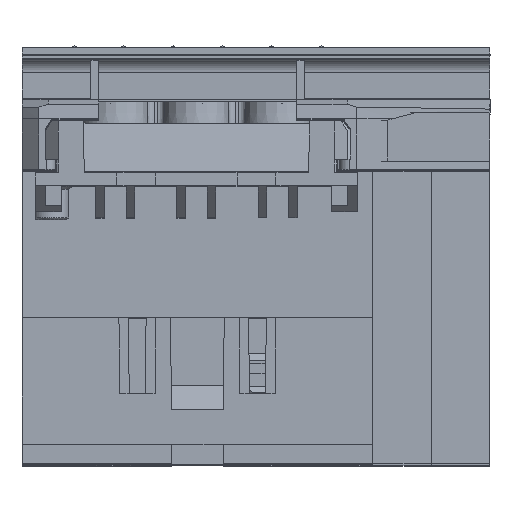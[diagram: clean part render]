
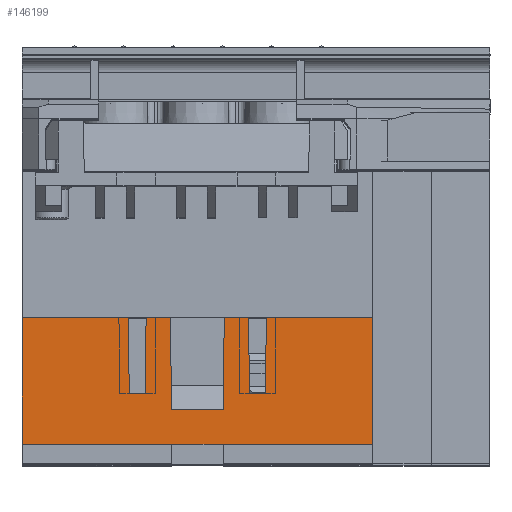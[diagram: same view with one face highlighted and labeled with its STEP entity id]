
A CAD part, top view. The second image highlights one B-rep face of the part: STEP entity #146199.
In plain terms, the highlighted planar face has unit normal (0, -0.009, 1).
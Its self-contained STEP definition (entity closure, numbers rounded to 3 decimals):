
#6551 = DIRECTION ( 'NONE',  ( 0., -1., -0.009 ) ) ;
#9497 = ORIENTED_EDGE ( 'NONE', *, *, #37506, .F. ) ;
#11161 = ORIENTED_EDGE ( 'NONE', *, *, #57602, .T. ) ;
#11245 = VERTEX_POINT ( 'NONE', #61186 ) ;
#11480 = VERTEX_POINT ( 'NONE', #109209 ) ;
#11559 = CARTESIAN_POINT ( 'NONE',  ( -4.127, -4., 200.004 ) ) ;
#13250 = LINE ( 'NONE', #33876, #45991 ) ;
#13486 = LINE ( 'NONE', #178816, #161713 ) ;
#15102 = DIRECTION ( 'NONE',  ( 1., 0., 0. ) ) ;
#19234 = DIRECTION ( 'NONE',  ( -0.009, -1., -0.009 ) ) ;
#21339 = EDGE_CURVE ( 'NONE', #98761, #40445, #148054, .T. ) ;
#23335 = DIRECTION ( 'NONE',  ( -1., 0., 0. ) ) ;
#24262 = VECTOR ( 'NONE', #23335, 1000. ) ;
#26118 = DIRECTION ( 'NONE',  ( 1., 0., 0. ) ) ;
#29124 = VECTOR ( 'NONE', #29799, 1000. ) ;
#29799 = DIRECTION ( 'NONE',  ( -0.009, 1., 0.009 ) ) ;
#30286 = ORIENTED_EDGE ( 'NONE', *, *, #21339, .T. ) ;
#33876 = CARTESIAN_POINT ( 'NONE',  ( -26., -4., 200.004 ) ) ;
#33909 = ORIENTED_EDGE ( 'NONE', *, *, #115626, .F. ) ;
#37506 = EDGE_CURVE ( 'NONE', #46855, #40445, #138639, .T. ) ;
#38106 = VERTEX_POINT ( 'NONE', #140403 ) ;
#38397 = VECTOR ( 'NONE', #19234, 1000. ) ;
#39551 = EDGE_CURVE ( 'NONE', #45191, #62389, #61982, .T. ) ;
#40406 = DIRECTION ( 'NONE',  ( 1., 0., 0. ) ) ;
#40445 = VERTEX_POINT ( 'NONE', #133307 ) ;
#42940 = VECTOR ( 'NONE', #26118, 1000. ) ;
#45191 = VERTEX_POINT ( 'NONE', #112033 ) ;
#45991 = VECTOR ( 'NONE', #144654, 1000. ) ;
#46332 = EDGE_CURVE ( 'NONE', #161485, #71693, #150613, .T. ) ;
#46717 = VECTOR ( 'NONE', #40406, 1000. ) ;
#46855 = VERTEX_POINT ( 'NONE', #75066 ) ;
#48503 = CARTESIAN_POINT ( 'NONE',  ( 4.303, 16.2, 200.18 ) ) ;
#48882 = CARTESIAN_POINT ( 'NONE',  ( -26., -15.7, 199.902 ) ) ;
#49442 = VERTEX_POINT ( 'NONE', #157116 ) ;
#52937 = EDGE_CURVE ( 'NONE', #11245, #120871, #92572, .T. ) ;
#54407 = CARTESIAN_POINT ( 'NONE',  ( 10.602, -4., 200.004 ) ) ;
#55580 = EDGE_CURVE ( 'NONE', #46855, #45191, #13486, .T. ) ;
#56451 = CARTESIAN_POINT ( 'NONE',  ( 8., -15.7, 199.902 ) ) ;
#57287 = ORIENTED_EDGE ( 'NONE', *, *, #125889, .T. ) ;
#57602 = EDGE_CURVE ( 'NONE', #62389, #60963, #95914, .T. ) ;
#58649 = VECTOR ( 'NONE', #92146, 1000. ) ;
#58812 = VECTOR ( 'NONE', #64510, 1000. ) ;
#58989 = VECTOR ( 'NONE', #120560, 1000. ) ;
#60963 = VERTEX_POINT ( 'NONE', #81703 ) ;
#61186 = CARTESIAN_POINT ( 'NONE',  ( -7.898, -4., 200.004 ) ) ;
#61399 = CARTESIAN_POINT ( 'NONE',  ( -26., 18.5, 200.2 ) ) ;
#61982 = LINE ( 'NONE', #165384, #140363 ) ;
#62389 = VERTEX_POINT ( 'NONE', #168849 ) ;
#64510 = DIRECTION ( 'NONE',  ( 1., 0., 0. ) ) ;
#65086 = ORIENTED_EDGE ( 'NONE', *, *, #52937, .F. ) ;
#65163 = LINE ( 'NONE', #48882, #58649 ) ;
#65275 = VECTOR ( 'NONE', #144603, 1000. ) ;
#68227 = DIRECTION ( 'NONE',  ( 1., 0., 0. ) ) ;
#71693 = VERTEX_POINT ( 'NONE', #56451 ) ;
#72616 = VERTEX_POINT ( 'NONE', #103142 ) ;
#74380 = VECTOR ( 'NONE', #68227, 1000. ) ;
#75066 = CARTESIAN_POINT ( 'NONE',  ( -27., -4., 200.004 ) ) ;
#76406 = CARTESIAN_POINT ( 'NONE',  ( 10.778, 16.2, 200.18 ) ) ;
#78887 = CARTESIAN_POINT ( 'NONE',  ( -26., -15.7, 199.902 ) ) ;
#80713 = ORIENTED_EDGE ( 'NONE', *, *, #156915, .T. ) ;
#81703 = CARTESIAN_POINT ( 'NONE',  ( 4., -23.5, 199.833 ) ) ;
#82086 = DIRECTION ( 'NONE',  ( 1., 0., 0. ) ) ;
#82418 = CARTESIAN_POINT ( 'NONE',  ( 27., -23.5, 199.833 ) ) ;
#83556 = ORIENTED_EDGE ( 'NONE', *, *, #123767, .T. ) ;
#84084 = ORIENTED_EDGE ( 'NONE', *, *, #154951, .T. ) ;
#85061 = CARTESIAN_POINT ( 'NONE',  ( 10.5, -15.7, 199.902 ) ) ;
#90058 = DIRECTION ( 'NONE',  ( 0., -0.009, 1. ) ) ;
#92146 = DIRECTION ( 'NONE',  ( -1., 0., 0. ) ) ;
#92572 = LINE ( 'NONE', #123747, #46717 ) ;
#95611 = CARTESIAN_POINT ( 'NONE',  ( -26., -4., 200.004 ) ) ;
#95914 = LINE ( 'NONE', #146650, #58812 ) ;
#97176 = DIRECTION ( 'NONE',  ( -0.009, 1., 0.009 ) ) ;
#97371 = ORIENTED_EDGE ( 'NONE', *, *, #97990, .T. ) ;
#97990 = EDGE_CURVE ( 'NONE', #60963, #172370, #153377, .T. ) ;
#98761 = VERTEX_POINT ( 'NONE', #158249 ) ;
#102397 = ORIENTED_EDGE ( 'NONE', *, *, #144824, .F. ) ;
#103142 = CARTESIAN_POINT ( 'NONE',  ( 4.003, -18.18, 199.88 ) ) ;
#103558 = CARTESIAN_POINT ( 'NONE',  ( 7.898, -4., 200.004 ) ) ;
#103850 = CARTESIAN_POINT ( 'NONE',  ( -7.722, 16.2, 200.18 ) ) ;
#104525 = CARTESIAN_POINT ( 'NONE',  ( -8., -15.7, 199.902 ) ) ;
#107518 = EDGE_CURVE ( 'NONE', #71693, #172547, #166435, .T. ) ;
#109209 = CARTESIAN_POINT ( 'NONE',  ( -4.003, -18.18, 199.88 ) ) ;
#111319 = AXIS2_PLACEMENT_3D ( 'NONE', #61399, #90058, #6551 ) ;
#112033 = CARTESIAN_POINT ( 'NONE',  ( -27., -23.5, 199.833 ) ) ;
#115626 = EDGE_CURVE ( 'NONE', #49442, #172547, #13250, .T. ) ;
#117667 = FACE_OUTER_BOUND ( 'NONE', #169704, .T. ) ;
#117730 = DIRECTION ( 'NONE',  ( -0.009, -1., -0.009 ) ) ;
#119919 = LINE ( 'NONE', #125114, #126353 ) ;
#119980 = LINE ( 'NONE', #149176, #58989 ) ;
#120560 = DIRECTION ( 'NONE',  ( -1., 0., 0. ) ) ;
#120752 = ORIENTED_EDGE ( 'NONE', *, *, #129348, .T. ) ;
#120871 = VERTEX_POINT ( 'NONE', #11559 ) ;
#121882 = ORIENTED_EDGE ( 'NONE', *, *, #46332, .T. ) ;
#122815 = VECTOR ( 'NONE', #15102, 1000. ) ;
#123431 = DIRECTION ( 'NONE',  ( 0., -1., -0.009 ) ) ;
#123747 = CARTESIAN_POINT ( 'NONE',  ( -26., -4., 200.004 ) ) ;
#123767 = EDGE_CURVE ( 'NONE', #172370, #38106, #164119, .T. ) ;
#125114 = CARTESIAN_POINT ( 'NONE',  ( -4.003, -18.18, 199.88 ) ) ;
#125889 = EDGE_CURVE ( 'NONE', #11480, #120871, #119919, .T. ) ;
#125971 = CARTESIAN_POINT ( 'NONE',  ( -26., -23.5, 199.833 ) ) ;
#126353 = VECTOR ( 'NONE', #97176, 1000. ) ;
#127538 = ORIENTED_EDGE ( 'NONE', *, *, #107518, .T. ) ;
#127903 = CARTESIAN_POINT ( 'NONE',  ( 27., 18.5, 200.2 ) ) ;
#129348 = EDGE_CURVE ( 'NONE', #11245, #141873, #171424, .T. ) ;
#130684 = EDGE_CURVE ( 'NONE', #49442, #72616, #136363, .T. ) ;
#133307 = CARTESIAN_POINT ( 'NONE',  ( -10.602, -4., 200.004 ) ) ;
#133621 = DIRECTION ( 'NONE',  ( -0.009, -1., -0.009 ) ) ;
#136363 = LINE ( 'NONE', #48503, #38397 ) ;
#138639 = LINE ( 'NONE', #95611, #42940 ) ;
#139484 = DIRECTION ( 'NONE',  ( 0., 1., 0.009 ) ) ;
#139499 = VECTOR ( 'NONE', #117730, 1000. ) ;
#140363 = VECTOR ( 'NONE', #82086, 1000. ) ;
#140403 = CARTESIAN_POINT ( 'NONE',  ( 27., -4., 200.004 ) ) ;
#141873 = VERTEX_POINT ( 'NONE', #104525 ) ;
#144077 = ORIENTED_EDGE ( 'NONE', *, *, #55580, .T. ) ;
#144603 = DIRECTION ( 'NONE',  ( -0.009, 1., 0.009 ) ) ;
#144654 = DIRECTION ( 'NONE',  ( 1., 0., 0. ) ) ;
#144824 = EDGE_CURVE ( 'NONE', #165917, #38106, #174650, .T. ) ;
#145386 = PLANE ( 'NONE',  #111319 ) ;
#146199 = ADVANCED_FACE ( 'NONE', ( #117667 ), #145386, .T. ) ;
#146364 = ORIENTED_EDGE ( 'NONE', *, *, #39551, .T. ) ;
#146650 = CARTESIAN_POINT ( 'NONE',  ( -26., -23.5, 199.833 ) ) ;
#148054 = LINE ( 'NONE', #171377, #65275 ) ;
#149176 = CARTESIAN_POINT ( 'NONE',  ( -26., -18.18, 199.88 ) ) ;
#150613 = LINE ( 'NONE', #78887, #24262 ) ;
#153377 = LINE ( 'NONE', #125971, #122815 ) ;
#154951 = EDGE_CURVE ( 'NONE', #72616, #11480, #119980, .T. ) ;
#156398 = CARTESIAN_POINT ( 'NONE',  ( 8., -15.7, 199.902 ) ) ;
#156915 = EDGE_CURVE ( 'NONE', #141873, #98761, #65163, .T. ) ;
#157116 = CARTESIAN_POINT ( 'NONE',  ( 4.127, -4., 200.004 ) ) ;
#158249 = CARTESIAN_POINT ( 'NONE',  ( -10.5, -15.7, 199.902 ) ) ;
#161485 = VERTEX_POINT ( 'NONE', #85061 ) ;
#161713 = VECTOR ( 'NONE', #123431, 1000. ) ;
#164119 = LINE ( 'NONE', #127903, #168420 ) ;
#164381 = CARTESIAN_POINT ( 'NONE',  ( -26., -4., 200.004 ) ) ;
#165384 = CARTESIAN_POINT ( 'NONE',  ( 4., -23.5, 199.833 ) ) ;
#165867 = ORIENTED_EDGE ( 'NONE', *, *, #130684, .T. ) ;
#165917 = VERTEX_POINT ( 'NONE', #54407 ) ;
#166435 = LINE ( 'NONE', #156398, #29124 ) ;
#168420 = VECTOR ( 'NONE', #139484, 1000. ) ;
#168849 = CARTESIAN_POINT ( 'NONE',  ( -4., -23.5, 199.833 ) ) ;
#169704 = EDGE_LOOP ( 'NONE', ( #9497, #144077, #146364, #11161, #97371, #83556, #102397, #173962, #121882, #127538, #33909, #165867, #84084, #57287, #65086, #120752, #80713, #30286 ) ) ;
#171377 = CARTESIAN_POINT ( 'NONE',  ( -10.5, -15.7, 199.902 ) ) ;
#171424 = LINE ( 'NONE', #103850, #180148 ) ;
#172370 = VERTEX_POINT ( 'NONE', #82418 ) ;
#172547 = VERTEX_POINT ( 'NONE', #103558 ) ;
#173962 = ORIENTED_EDGE ( 'NONE', *, *, #179185, .T. ) ;
#174650 = LINE ( 'NONE', #164381, #74380 ) ;
#176534 = LINE ( 'NONE', #76406, #139499 ) ;
#178816 = CARTESIAN_POINT ( 'NONE',  ( -27., 18.5, 200.2 ) ) ;
#179185 = EDGE_CURVE ( 'NONE', #165917, #161485, #176534, .T. ) ;
#180148 = VECTOR ( 'NONE', #133621, 1000. ) ;
